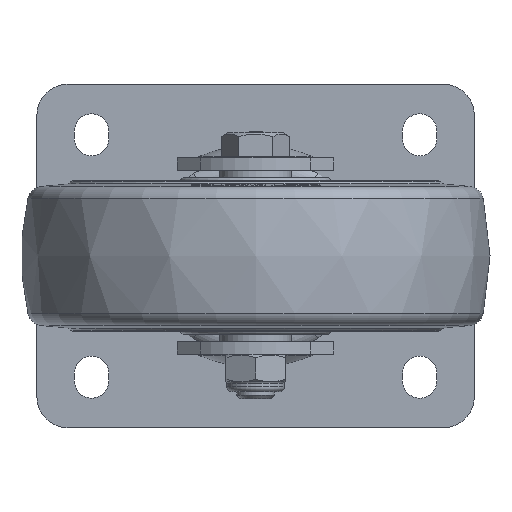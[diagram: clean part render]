
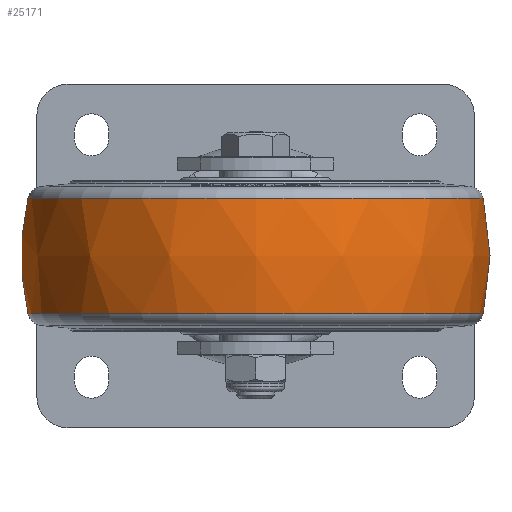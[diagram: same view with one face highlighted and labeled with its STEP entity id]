
A CAD part, front view. The second image highlights one B-rep face of the part: STEP entity #25171.
In plain terms, the highlighted free-form (B-spline) face has degree [2, 2] with [3, 9] control points.
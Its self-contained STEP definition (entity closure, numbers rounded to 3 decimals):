
#107=(
BOUNDED_SURFACE()
B_SPLINE_SURFACE(2,2,((#45828,#45829,#45830,#45831,#45832,#45833,#45834,
#45835,#45836),(#45837,#45838,#45839,#45840,#45841,#45842,#45843,#45844,
#45845),(#45846,#45847,#45848,#45849,#45850,#45851,#45852,#45853,#45854)),
 .UNSPECIFIED.,.F.,.T.,.F.)
B_SPLINE_SURFACE_WITH_KNOTS((3,3),(3,2,2,2,3),(-0.233,0.233),
(-3.142,-1.571,0.,1.571,3.142),
 .UNSPECIFIED.)
GEOMETRIC_REPRESENTATION_ITEM()
RATIONAL_B_SPLINE_SURFACE(((1.,0.707,1.,0.707,1.,
0.707,1.,0.707,1.),(0.973,0.688,
0.973,0.688,0.973,0.688,
0.973,0.688,0.973),(1.,0.707,
1.,0.707,1.,0.707,1.,0.707,1.)))
REPRESENTATION_ITEM('')
SURFACE()
);
#4241=FACE_OUTER_BOUND('',#5871,.T.);
#5871=EDGE_LOOP('',(#21944,#21945,#21946,#21947));
#9623=CIRCLE('',#26509,72.847);
#9624=CIRCLE('',#26510,72.847);
#9625=CIRCLE('',#26511,80.);
#11966=VERTEX_POINT('',#45825);
#11967=VERTEX_POINT('',#45855);
#15323=EDGE_CURVE('',#11966,#11966,#9623,.T.);
#15324=EDGE_CURVE('',#11967,#11967,#9624,.T.);
#15325=EDGE_CURVE('',#11967,#11966,#9625,.T.);
#21944=ORIENTED_EDGE('',*,*,#15324,.F.);
#21945=ORIENTED_EDGE('',*,*,#15325,.T.);
#21946=ORIENTED_EDGE('',*,*,#15323,.F.);
#21947=ORIENTED_EDGE('',*,*,#15325,.F.);
#25171=ADVANCED_FACE('',(#4241),#107,.F.);
#26509=AXIS2_PLACEMENT_3D('',#45827,#30317,#30318);
#26510=AXIS2_PLACEMENT_3D('',#45856,#30319,#30320);
#26511=AXIS2_PLACEMENT_3D('',#45857,#30321,#30322);
#30317=DIRECTION('center_axis',(0.,0.,
-1.));
#30318=DIRECTION('ref_axis',(0.,1.,0.));
#30319=DIRECTION('center_axis',(0.,0.,
1.));
#30320=DIRECTION('ref_axis',(0.,1.,0.));
#30321=DIRECTION('center_axis',(0.,-1.,0.));
#30322=DIRECTION('ref_axis',(-1.,0.,0.));
#45825=CARTESIAN_POINT('',(-72.847,-115.,-18.435));
#45827=CARTESIAN_POINT('Origin',(0.,-115.,-18.435));
#45828=CARTESIAN_POINT('Ctrl Pts',(-72.847,-115.,18.435));
#45829=CARTESIAN_POINT('Ctrl Pts',(-72.847,-42.153,
18.435));
#45830=CARTESIAN_POINT('Ctrl Pts',(0.,-42.153,
18.435));
#45831=CARTESIAN_POINT('Ctrl Pts',(72.847,-42.153,18.435));
#45832=CARTESIAN_POINT('Ctrl Pts',(72.847,-115.,18.435));
#45833=CARTESIAN_POINT('Ctrl Pts',(72.847,-187.847,18.435));
#45834=CARTESIAN_POINT('Ctrl Pts',(0.,-187.847,
18.435));
#45835=CARTESIAN_POINT('Ctrl Pts',(-72.847,-187.847,
18.435));
#45836=CARTESIAN_POINT('Ctrl Pts',(-72.847,-115.,18.435));
#45837=CARTESIAN_POINT('Ctrl Pts',(-77.213,-115.,0.));
#45838=CARTESIAN_POINT('Ctrl Pts',(-77.213,-37.787,
0.));
#45839=CARTESIAN_POINT('Ctrl Pts',(0.,-37.787,
0.));
#45840=CARTESIAN_POINT('Ctrl Pts',(77.213,-37.787,0.));
#45841=CARTESIAN_POINT('Ctrl Pts',(77.213,-115.,0.));
#45842=CARTESIAN_POINT('Ctrl Pts',(77.213,-192.213,0.));
#45843=CARTESIAN_POINT('Ctrl Pts',(0.,-192.213,
0.));
#45844=CARTESIAN_POINT('Ctrl Pts',(-77.213,-192.213,
0.));
#45845=CARTESIAN_POINT('Ctrl Pts',(-77.213,-115.,0.));
#45846=CARTESIAN_POINT('Ctrl Pts',(-72.847,-115.,-18.435));
#45847=CARTESIAN_POINT('Ctrl Pts',(-72.847,-42.153,
-18.435));
#45848=CARTESIAN_POINT('Ctrl Pts',(0.,-42.153,
-18.435));
#45849=CARTESIAN_POINT('Ctrl Pts',(72.847,-42.153,-18.435));
#45850=CARTESIAN_POINT('Ctrl Pts',(72.847,-115.,-18.435));
#45851=CARTESIAN_POINT('Ctrl Pts',(72.847,-187.847,-18.435));
#45852=CARTESIAN_POINT('Ctrl Pts',(0.,-187.847,
-18.435));
#45853=CARTESIAN_POINT('Ctrl Pts',(-72.847,-187.847,
-18.435));
#45854=CARTESIAN_POINT('Ctrl Pts',(-72.847,-115.,-18.435));
#45855=CARTESIAN_POINT('',(-72.847,-115.,18.435));
#45856=CARTESIAN_POINT('Origin',(0.,-115.,18.435));
#45857=CARTESIAN_POINT('Origin',(5.,-115.,0.));
